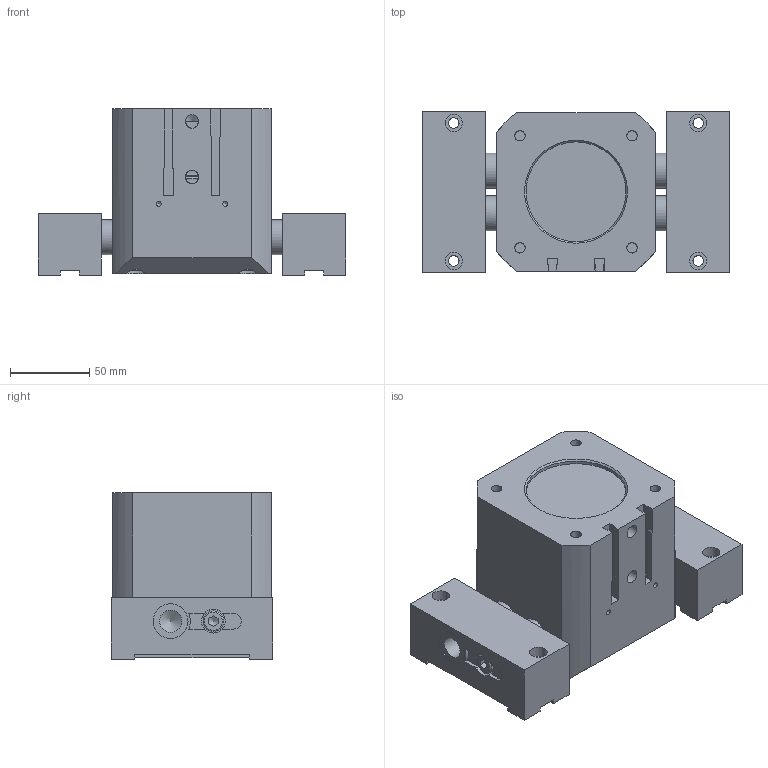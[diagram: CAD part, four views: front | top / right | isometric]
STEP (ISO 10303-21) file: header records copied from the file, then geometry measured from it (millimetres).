
FILE_DESCRIPTION((''),'2;1');
FILE_NAME('T:\CAD\Standard\Daten\3D-Datenbank\GP\4 - 3D-CAD-Daten GP 050-125\GP125\step-Daten\G-GP125-l1-GS+UB open.stp','2013-11-07T13:21:05',('Dirk'),(''),'Autodesk Inventor 2011','Autodesk Inventor 2011','');
FILE_SCHEMA(('AUTOMOTIVE_DESIGN { 1 0 10303 214 1 1 1 1 }'));
Length unit declared in the file: millimetre
Products named in the file (1): Bauteil66
Bounding box: 194.2 x 102 x 105 mm (x, y, z)
Volume: 1130911.5 mm3; surface area: 190646.1 mm2
Topology: 1 solids, 18 shells, 408 faces, 1047 edges, 680 vertices
Faces by surface type: plane 237, cylinder 110, cone 36, torus 24, bspline 1
Full cylindrical faces by diameter (mm): 3.242 x2, 6.647 x10, 8 x6, 8.566 x2, 9 x6, 10.106 x1, 11 x4, 12 x1, 13 x7, 14 x2, 15 x8, 22 x8, 24 x1, 25 x7, 28 x1, 31.4 x2, 37 x1, 60 x2, 63 x1, 70.2 x1, 77.1 x2, 80 x5
Entity records: 12796 total; most frequent: CARTESIAN_POINT 3281, DIRECTION 1879, ORIENTED_EDGE 1674, EDGE_CURVE 837, AXIS2_PLACEMENT_3D 722, EDGE_LOOP 625, VERTEX_POINT 606, VECTOR 435
